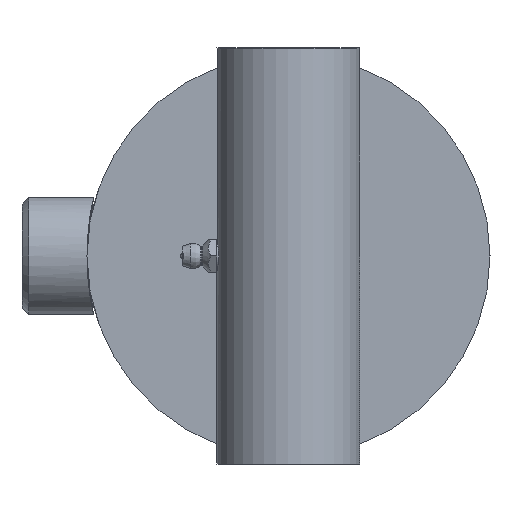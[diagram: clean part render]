
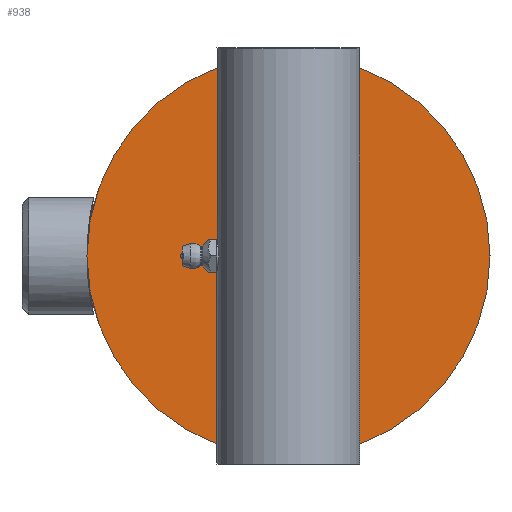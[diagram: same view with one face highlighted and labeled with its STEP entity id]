
A CAD part, left-side view. The second image highlights one B-rep face of the part: STEP entity #938.
In plain terms, the highlighted planar face has unit normal (-1, 0, 0) as drawn and (0, 0, 1) by its records, which use the part's own axes.
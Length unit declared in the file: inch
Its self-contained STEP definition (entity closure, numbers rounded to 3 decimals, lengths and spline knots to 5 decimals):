
#918=CARTESIAN_POINT('',(1.9375,0.,0.5));
#919=VERTEX_POINT('',#918);
#920=CARTESIAN_POINT('',(0.0,0.0,0.5));
#921=DIRECTION('',(0.0,0.0,-1.0));
#922=DIRECTION('',(-1.0,0.0,0.0));
#923=AXIS2_PLACEMENT_3D('',#920,#921,#922);
#924=CIRCLE('',#923,1.9375);
#925=EDGE_CURVE('',#919,#919,#924,.T.);
#930=CARTESIAN_POINT('',(0.0,0.0,0.5));
#931=DIRECTION('',(0.0,0.0,-1.0));
#932=DIRECTION('',(-1.0,0.0,0.0));
#933=AXIS2_PLACEMENT_3D('',#930,#931,#932);
#934=PLANE('',#933);
#935=ORIENTED_EDGE('',*,*,#925,.F.);
#936=EDGE_LOOP('',(#935));
#937=FACE_OUTER_BOUND('',#936,.T.);
#938=ADVANCED_FACE('',(#937),#934,.F.);
